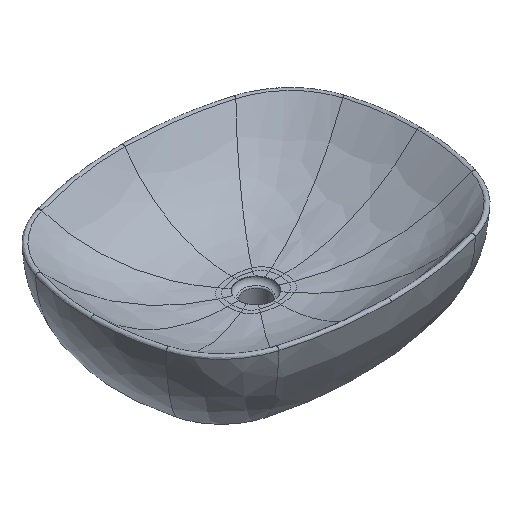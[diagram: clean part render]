
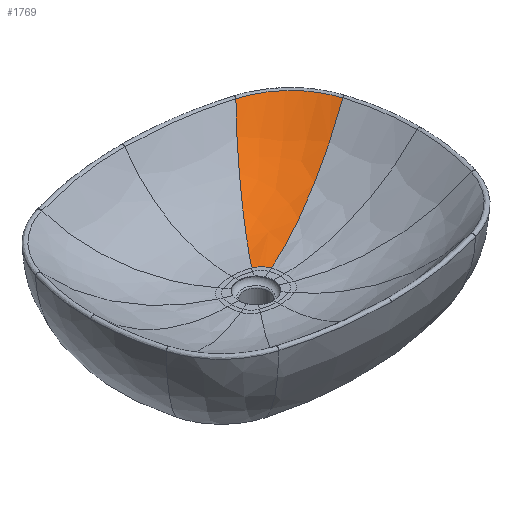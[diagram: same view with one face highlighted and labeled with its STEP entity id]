
A CAD part, isometric view. The second image highlights one B-rep face of the part: STEP entity #1769.
In plain terms, the highlighted free-form (B-spline) face has degree [3, 3] with [5, 7] control points.
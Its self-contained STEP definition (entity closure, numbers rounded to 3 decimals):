
#29=LINE('',#5386,#43);
#43=VECTOR('',#2046,10.);
#233=B_SPLINE_SURFACE_WITH_KNOTS('',3,3,((#5316,#5317,#5318,#5319,#5320,
#5321,#5322),(#5323,#5324,#5325,#5326,#5327,#5328,#5329),(#5330,#5331,#5332,
#5333,#5334,#5335,#5336),(#5337,#5338,#5339,#5340,#5341,#5342,#5343),(#5344,
#5345,#5346,#5347,#5348,#5349,#5350)),.UNSPECIFIED.,.F.,.F.,.F.,(4,1,4),
(4,1,1,1,4),(0.4,0.569,0.738),(-0.003,
0.21,0.419,0.629,0.847),
 .UNSPECIFIED.);
#269=FACE_OUTER_BOUND('',#394,.T.);
#394=EDGE_LOOP('',(#1201,#1202,#1203,#1204,#1205,#1206));
#554=B_SPLINE_CURVE_WITH_KNOTS('',3,(#5307,#5308,#5309,#5310,#5311,#5312,
#5313),.UNSPECIFIED.,.F.,.F.,(4,3,4),(0.,0.623,
1.),.UNSPECIFIED.);
#555=B_SPLINE_CURVE_WITH_KNOTS('',3,(#5352,#5353,#5354,#5355,#5356,#5357,
#5358,#5359,#5360,#5361,#5362,#5363,#5364),.UNSPECIFIED.,.F.,.F.,(4,3,3,
3,4),(0.,0.244,0.496,0.748,1.),
 .UNSPECIFIED.);
#556=B_SPLINE_CURVE_WITH_KNOTS('',3,(#5366,#5367,#5368,#5369,#5370),
 .UNSPECIFIED.,.F.,.F.,(4,1,4),(0.,0.5,1.),.UNSPECIFIED.);
#557=B_SPLINE_CURVE_WITH_KNOTS('',3,(#5372,#5373,#5374,#5375,#5376,#5377,
#5378,#5379,#5380,#5381,#5382,#5383,#5384),.UNSPECIFIED.,.F.,.F.,(4,3,3,
3,4),(0.,0.245,0.497,0.748,1.),
 .UNSPECIFIED.);
#558=B_SPLINE_CURVE_WITH_KNOTS('',3,(#5387,#5388,#5389,#5390,#5391,#5392,
#5393,#5394,#5395,#5396),.UNSPECIFIED.,.F.,.F.,(4,1,1,1,1,1,1,4),(0.,0.143,
0.286,0.429,0.571,0.714,0.857,
1.),.UNSPECIFIED.);
#723=VERTEX_POINT('',#5305);
#724=VERTEX_POINT('',#5306);
#725=VERTEX_POINT('',#5351);
#726=VERTEX_POINT('',#5365);
#727=VERTEX_POINT('',#5371);
#728=VERTEX_POINT('',#5385);
#901=EDGE_CURVE('',#723,#724,#554,.T.);
#904=EDGE_CURVE('',#723,#725,#555,.T.);
#905=EDGE_CURVE('',#725,#726,#556,.T.);
#906=EDGE_CURVE('',#727,#726,#557,.T.);
#907=EDGE_CURVE('',#728,#727,#29,.T.);
#908=EDGE_CURVE('',#724,#728,#558,.T.);
#1201=ORIENTED_EDGE('',*,*,#901,.F.);
#1202=ORIENTED_EDGE('',*,*,#904,.T.);
#1203=ORIENTED_EDGE('',*,*,#905,.T.);
#1204=ORIENTED_EDGE('',*,*,#906,.F.);
#1205=ORIENTED_EDGE('',*,*,#907,.F.);
#1206=ORIENTED_EDGE('',*,*,#908,.F.);
#1769=ADVANCED_FACE('',(#269),#233,.F.);
#2046=DIRECTION('',(0.299,-0.954,-0.001));
#5305=CARTESIAN_POINT('',(179.302,-271.68,113.687));
#5306=CARTESIAN_POINT('',(179.769,-271.816,113.69));
#5307=CARTESIAN_POINT('Ctrl Pts',(179.302,-271.68,113.687));
#5308=CARTESIAN_POINT('Ctrl Pts',(179.399,-271.708,113.687));
#5309=CARTESIAN_POINT('Ctrl Pts',(179.496,-271.736,113.688));
#5310=CARTESIAN_POINT('Ctrl Pts',(179.593,-271.765,113.689));
#5311=CARTESIAN_POINT('Ctrl Pts',(179.652,-271.782,113.689));
#5312=CARTESIAN_POINT('Ctrl Pts',(179.71,-271.799,113.69));
#5313=CARTESIAN_POINT('Ctrl Pts',(179.769,-271.816,113.69));
#5316=CARTESIAN_POINT('Ctrl Pts',(178.353,-270.018,115.485));
#5317=CARTESIAN_POINT('Ctrl Pts',(170.523,-278.237,101.811));
#5318=CARTESIAN_POINT('Ctrl Pts',(153.796,-296.971,77.654));
#5319=CARTESIAN_POINT('Ctrl Pts',(126.059,-330.465,50.957));
#5320=CARTESIAN_POINT('Ctrl Pts',(95.964,-368.338,33.991));
#5321=CARTESIAN_POINT('Ctrl Pts',(74.832,-395.442,30.002));
#5322=CARTESIAN_POINT('Ctrl Pts',(64.014,-409.278,30.015));
#5323=CARTESIAN_POINT('Ctrl Pts',(197.153,-275.18,115.486));
#5324=CARTESIAN_POINT('Ctrl Pts',(188.265,-283.353,101.785));
#5325=CARTESIAN_POINT('Ctrl Pts',(169.261,-301.786,77.637));
#5326=CARTESIAN_POINT('Ctrl Pts',(137.728,-334.344,51.005));
#5327=CARTESIAN_POINT('Ctrl Pts',(103.501,-370.924,34.065));
#5328=CARTESIAN_POINT('Ctrl Pts',(79.457,-397.025,30.038));
#5329=CARTESIAN_POINT('Ctrl Pts',(67.148,-410.351,30.017));
#5330=CARTESIAN_POINT('Ctrl Pts',(232.088,-295.311,115.486));
#5331=CARTESIAN_POINT('Ctrl Pts',(221.263,-302.755,101.776));
#5332=CARTESIAN_POINT('Ctrl Pts',(198.065,-319.283,77.668));
#5333=CARTESIAN_POINT('Ctrl Pts',(159.483,-347.957,51.134));
#5334=CARTESIAN_POINT('Ctrl Pts',(117.559,-379.856,34.223));
#5335=CARTESIAN_POINT('Ctrl Pts',(88.084,-402.501,30.114));
#5336=CARTESIAN_POINT('Ctrl Pts',(72.992,-414.059,30.02));
#5337=CARTESIAN_POINT('Ctrl Pts',(252.812,-329.894,115.484));
#5338=CARTESIAN_POINT('Ctrl Pts',(240.994,-335.632,101.846));
#5339=CARTESIAN_POINT('Ctrl Pts',(215.509,-348.281,77.813));
#5340=CARTESIAN_POINT('Ctrl Pts',(172.785,-370.076,51.296));
#5341=CARTESIAN_POINT('Ctrl Pts',(126.177,-394.219,34.365));
#5342=CARTESIAN_POINT('Ctrl Pts',(93.369,-411.305,30.183));
#5343=CARTESIAN_POINT('Ctrl Pts',(76.572,-420.023,30.022));
#5344=CARTESIAN_POINT('Ctrl Pts',(258.294,-348.601,115.482));
#5345=CARTESIAN_POINT('Ctrl Pts',(246.299,-353.378,101.9));
#5346=CARTESIAN_POINT('Ctrl Pts',(220.319,-363.881,77.91));
#5347=CARTESIAN_POINT('Ctrl Pts',(176.516,-381.935,51.378));
#5348=CARTESIAN_POINT('Ctrl Pts',(128.602,-401.902,34.424));
#5349=CARTESIAN_POINT('Ctrl Pts',(94.852,-416.014,30.211));
#5350=CARTESIAN_POINT('Ctrl Pts',(77.577,-423.213,30.024));
#5351=CARTESIAN_POINT('',(65.609,-407.812,30.023));
#5352=CARTESIAN_POINT('Ctrl Pts',(179.302,-271.68,113.687));
#5353=CARTESIAN_POINT('Ctrl Pts',(171.66,-279.631,100.741));
#5354=CARTESIAN_POINT('Ctrl Pts',(163.481,-288.661,89.194));
#5355=CARTESIAN_POINT('Ctrl Pts',(154.879,-298.524,79.109));
#5356=CARTESIAN_POINT('Ctrl Pts',(145.988,-308.719,68.685));
#5357=CARTESIAN_POINT('Ctrl Pts',(136.645,-319.805,59.824));
#5358=CARTESIAN_POINT('Ctrl Pts',(126.951,-331.554,52.603));
#5359=CARTESIAN_POINT('Ctrl Pts',(117.257,-343.303,45.382));
#5360=CARTESIAN_POINT('Ctrl Pts',(107.212,-355.715,39.801));
#5361=CARTESIAN_POINT('Ctrl Pts',(96.938,-368.53,35.997));
#5362=CARTESIAN_POINT('Ctrl Pts',(86.664,-381.345,32.193));
#5363=CARTESIAN_POINT('Ctrl Pts',(76.161,-394.562,30.165));
#5364=CARTESIAN_POINT('Ctrl Pts',(65.609,-407.812,30.023));
#5365=CARTESIAN_POINT('',(79.445,-422.028,30.053));
#5366=CARTESIAN_POINT('Ctrl Pts',(65.609,-407.812,30.023));
#5367=CARTESIAN_POINT('Ctrl Pts',(68.78,-408.96,30.029));
#5368=CARTESIAN_POINT('Ctrl Pts',(74.683,-412.773,30.039));
#5369=CARTESIAN_POINT('Ctrl Pts',(78.366,-418.799,30.049));
#5370=CARTESIAN_POINT('Ctrl Pts',(79.445,-422.028,30.053));
#5371=CARTESIAN_POINT('',(256.317,-347.169,113.935));
#5372=CARTESIAN_POINT('Ctrl Pts',(256.317,-347.169,113.935));
#5373=CARTESIAN_POINT('Ctrl Pts',(244.72,-351.9,100.977));
#5374=CARTESIAN_POINT('Ctrl Pts',(232.147,-357.107,89.426));
#5375=CARTESIAN_POINT('Ctrl Pts',(218.812,-362.687,79.344));
#5376=CARTESIAN_POINT('Ctrl Pts',(205.113,-368.419,68.986));
#5377=CARTESIAN_POINT('Ctrl Pts',(190.61,-374.545,60.178));
#5378=CARTESIAN_POINT('Ctrl Pts',(175.501,-380.966,52.985));
#5379=CARTESIAN_POINT('Ctrl Pts',(160.391,-387.387,45.793));
#5380=CARTESIAN_POINT('Ctrl Pts',(144.677,-394.102,40.216));
#5381=CARTESIAN_POINT('Ctrl Pts',(128.579,-400.992,36.362));
#5382=CARTESIAN_POINT('Ctrl Pts',(112.482,-407.883,32.508));
#5383=CARTESIAN_POINT('Ctrl Pts',(96.002,-414.949,30.375));
#5384=CARTESIAN_POINT('Ctrl Pts',(79.445,-422.028,30.053));
#5385=CARTESIAN_POINT('',(256.291,-347.085,113.935));
#5386=CARTESIAN_POINT('',(256.291,-347.085,113.935));
#5387=CARTESIAN_POINT('Ctrl Pts',(179.769,-271.816,113.69));
#5388=CARTESIAN_POINT('Ctrl Pts',(184.815,-273.312,113.719));
#5389=CARTESIAN_POINT('Ctrl Pts',(194.736,-277.026,113.769));
#5390=CARTESIAN_POINT('Ctrl Pts',(208.853,-284.676,113.831));
#5391=CARTESIAN_POINT('Ctrl Pts',(221.789,-294.219,113.885));
#5392=CARTESIAN_POINT('Ctrl Pts',(233.125,-305.353,113.92));
#5393=CARTESIAN_POINT('Ctrl Pts',(242.892,-318.113,113.935));
#5394=CARTESIAN_POINT('Ctrl Pts',(250.8,-332.108,113.942));
#5395=CARTESIAN_POINT('Ctrl Pts',(254.704,-342.024,113.94));
#5396=CARTESIAN_POINT('Ctrl Pts',(256.291,-347.085,113.935));
